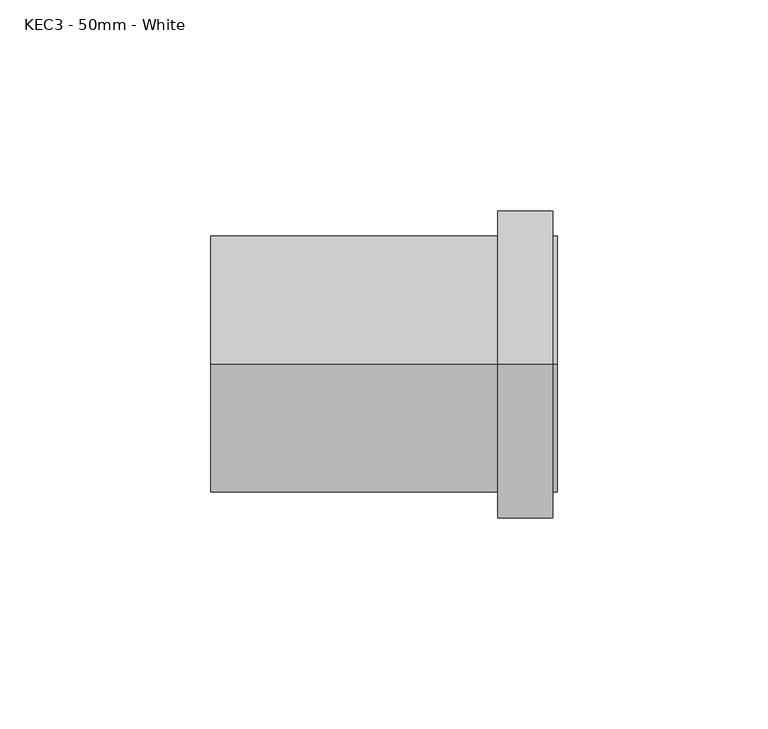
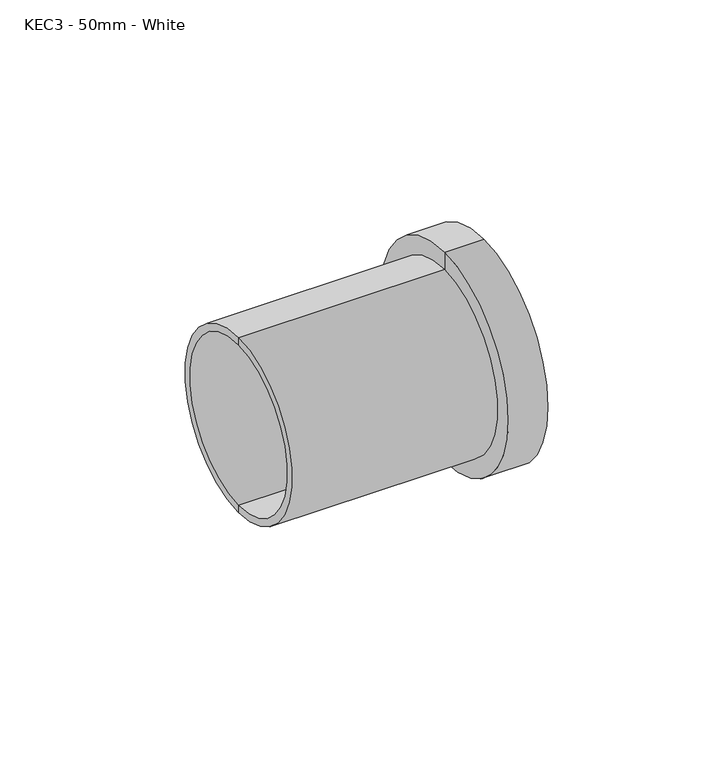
"""IFC4 building model written with IfcOpenShell, lengths in millimetres: pipe fitting geometry, MarleyPlumbingAndDrainage_PipeFitting_ExpansionCoupling : KEC3 - 50mm - White."""

from ifc_helpers import new_model, si_unit, frame, origin, place, context, project, spatial, polyline, circle_curve, source, transform, mapped, element, save
from ifc_brep_helpers import plane_surface, cylinder_surface, revolved_surface, advanced_brep


def kec3_50mm_white_977d8cc5(model_context):
    return source(origin(), model_context, "Body", "AdvancedBrep", [
        advanced_brep(
        [(-46.8253818, 0.0, -28.0), (-46.8253818, 0.0, 28.0), (-46.8253818, 0.0, 30.5), (-46.8253818, 0.0, -30.5), (35.1746182, 0.0, -28.0), (35.1746182, 0.0, 28.0), (-14.8253818, 0.0, 28.0), (-14.8253818, 0.0, -28.0), (35.1746182, 0.0, -30.5), (35.1746182, 0.0, 30.5), (-16.8253818, 0.0, -28.0), (-16.8253818, 0.0, 28.0), (-16.8253818, 0.0, 0.0), (-14.8253818, 0.0, 0.0), (34.1746182, 0.0, -30.5), (34.1746182, 0.0, 30.5), (34.1746182, 0.0, -36.5), (34.1746182, 0.0, 36.5), (21.1746182, 0.0, -36.5), (21.1746182, 0.0, 36.5), (21.1746182, 0.0, -30.5), (21.1746182, 0.0, 30.5)],
        [
            (0, 1, circle_curve(frame((-46.8253818, 0.0, 0.0), z_axis=(1.0, 0.0, 0.0), x_axis=(0.0, 0.0, 1.0)), 28.0)),
            (1, 2),
            (2, 3, circle_curve(frame((-46.8253818, 0.0, 0.0), z_axis=(-1.0, 0.0, 0.0), x_axis=(0.0, 0.0, 1.0)), 30.5)),
            (3, 0),
            (1, 0, circle_curve(frame((-46.8253818, 0.0, 0.0), z_axis=(1.0, 0.0, 0.0), x_axis=(0.0, 0.0, 1.0)), 28.0)),
            (3, 2, circle_curve(frame((-46.8253818, 0.0, 0.0), z_axis=(-1.0, 0.0, 0.0), x_axis=(0.0, 0.0, 1.0)), 30.5)),
            (4, 5, circle_curve(frame((35.1746182, 0.0, 0.0), z_axis=(1.0, 0.0, 0.0), x_axis=(0.0, 0.0, 1.0)), 28.0)),
            (5, 6),
            (6, 7, circle_curve(frame((-14.8253818, 0.0, 0.0), z_axis=(-1.0, 0.0, 0.0), x_axis=(0.0, 0.0, 1.0)), 28.0)),
            (7, 4),
            (5, 4, circle_curve(frame((35.1746182, 0.0, 0.0), z_axis=(1.0, 0.0, 0.0), x_axis=(0.0, 0.0, 1.0)), 28.0)),
            (7, 6, circle_curve(frame((-14.8253818, 0.0, 0.0), z_axis=(-1.0, 0.0, 0.0), x_axis=(0.0, 0.0, 1.0)), 28.0)),
            (8, 9, circle_curve(frame((35.1746182, 0.0, 0.0), z_axis=(1.0, 0.0, 0.0), x_axis=(0.0, 0.0, 1.0)), 30.5)),
            (9, 5),
            (4, 8),
            (9, 8, circle_curve(frame((35.1746182, 0.0, 0.0), z_axis=(1.0, 0.0, 0.0), x_axis=(0.0, 0.0, 1.0)), 30.5)),
            (10, 11, circle_curve(frame((-16.8253818, 0.0, 0.0), z_axis=(1.0, 0.0, 0.0), x_axis=(0.0, 0.0, 1.0)), 28.0)),
            (11, 1),
            (0, 10),
            (11, 10, circle_curve(frame((-16.8253818, 0.0, 0.0), z_axis=(1.0, 0.0, 0.0), x_axis=(0.0, 0.0, 1.0)), 28.0)),
            (12, 11),
            (10, 12),
            (6, 13),
            (13, 7),
            (14, 15, circle_curve(frame((34.1746182, 0.0, 0.0), z_axis=(1.0, 0.0, 0.0), x_axis=(0.0, 0.0, 1.0)), 30.5)),
            (15, 9),
            (8, 14),
            (15, 14, circle_curve(frame((34.1746182, 0.0, 0.0), z_axis=(1.0, 0.0, 0.0), x_axis=(0.0, 0.0, 1.0)), 30.5)),
            (16, 17, circle_curve(frame((34.1746182, 0.0, 0.0), z_axis=(1.0, 0.0, 0.0), x_axis=(0.0, 0.0, 1.0)), 36.5)),
            (17, 15),
            (14, 16),
            (17, 16, circle_curve(frame((34.1746182, 0.0, 0.0), z_axis=(1.0, 0.0, 0.0), x_axis=(0.0, 0.0, 1.0)), 36.5)),
            (18, 19, circle_curve(frame((21.1746182, 0.0, 0.0), z_axis=(1.0, 0.0, 0.0), x_axis=(0.0, 0.0, 1.0)), 36.5)),
            (19, 17),
            (16, 18),
            (19, 18, circle_curve(frame((21.1746182, 0.0, 0.0), z_axis=(1.0, 0.0, 0.0), x_axis=(0.0, 0.0, 1.0)), 36.5)),
            (20, 21, circle_curve(frame((21.1746182, 0.0, 0.0), z_axis=(1.0, 0.0, 0.0), x_axis=(0.0, 0.0, 1.0)), 30.5)),
            (21, 19),
            (18, 20),
            (21, 20, circle_curve(frame((21.1746182, 0.0, 0.0), z_axis=(1.0, 0.0, 0.0), x_axis=(0.0, 0.0, 1.0)), 30.5)),
            (2, 21),
            (20, 3),
        ],
        [
            plane_surface(frame((-46.8253818, 0.0, 0.0), z_axis=(-1.0, 0.0, 0.0), x_axis=(0.0, 0.0, 1.0))),
            revolved_surface(polyline([(-14.82538180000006, 0.0, 28.0), (35.17461819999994, 0.0, 28.0)]), (-1184.7325039, 0.0, 0.0), (-1.0, 0.0, 0.0)),
            plane_surface(frame((35.1746182, 0.0, 0.0), z_axis=(1.0, 0.0, 0.0), x_axis=(0.0, 0.0, 1.0))),
            revolved_surface(polyline([(-46.82538180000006, 0.0, 28.0), (-16.82538180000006, 0.0, 28.0)]), (-1184.7325039, 0.0, 0.0), (-1.0, 0.0, 0.0)),
            plane_surface(frame((-16.8253818, 0.0, 0.0), z_axis=(-1.0, 0.0, 0.0), x_axis=(0.0, 0.0, 1.0))),
            plane_surface(frame((-14.8253818, 0.0, 0.0), z_axis=(1.0, 0.0, 0.0), x_axis=(0.0, 0.0, 1.0))),
            cylinder_surface(frame((-1184.7325039, 0.0, 0.0), z_axis=(-1.0, 0.0, 0.0), x_axis=(0.0, 0.0, 1.0)), 30.5),
            plane_surface(frame((34.1746182, 0.0, 0.0), z_axis=(1.0, 0.0, 0.0), x_axis=(0.0, 0.0, 1.0))),
            cylinder_surface(frame((-1184.7325039, 0.0, 0.0), z_axis=(-1.0, 0.0, 0.0), x_axis=(0.0, 0.0, 1.0)), 36.5),
            plane_surface(frame((21.1746182, 0.0, 0.0), z_axis=(-1.0, 0.0, 0.0), x_axis=(0.0, 0.0, 1.0))),
        ],
        [
            (0, [[1, 2, 3, 4]]),
            (0, [[5, -4, 6, -2]]),
            (1, [[7, 8, 9, 10]]),
            (1, [[11, -10, 12, -8]]),
            (2, [[13, 14, -7, 15]]),
            (2, [[16, -15, -11, -14]]),
            (3, [[17, 18, -1, 19]]),
            (3, [[20, -19, -5, -18]]),
            (4, [[21, -17, 22]]),
            (4, [[-22, -20, -21]]),
            (5, [[-9, 23, 24]]),
            (5, [[-12, -24, -23]]),
            (6, [[25, 26, -13, 27]]),
            (6, [[28, -27, -16, -26]]),
            (7, [[29, 30, -25, 31]]),
            (7, [[32, -31, -28, -30]]),
            (8, [[33, 34, -29, 35]]),
            (8, [[36, -35, -32, -34]]),
            (9, [[37, 38, -33, 39]]),
            (9, [[40, -39, -36, -38]]),
            (6, [[-3, 41, -37, 42]]),
            (6, [[-6, -42, -40, -41]]),
        ],
    ),
    ])


if __name__ == "__main__":
    model = new_model("IFC4")
    model_context = context("Model", 3, world=origin())
    ifc_project = project(units=[si_unit("LENGTHUNIT", "METRE", prefix="MILLI")], contexts=[model_context])
    site = spatial("IfcSite", under=ifc_project)
    building = spatial("IfcBuilding", under=site)
    placement = place(None, origin())
    kec3_50mm_white_shape = kec3_50mm_white_977d8cc5(model_context)
    element("IfcPipeFitting", 1, ObjectType="MarleyPlumbingAndDrainage_PipeFitting_ExpansionCoupling : KEC3 - 50mm - White", at=placement, inside=building, context=model_context, shape_type="MappedRepresentation", body=[
        mapped(kec3_50mm_white_shape, transform((0.0, 0.0, 0.0), x_axis=(1.0, 0.0, 0.0), y_axis=(0.0, 1.0, 0.0), z_axis=(0.0, 0.0, 1.0))),
    ])
    save(model, "model.ifc")
